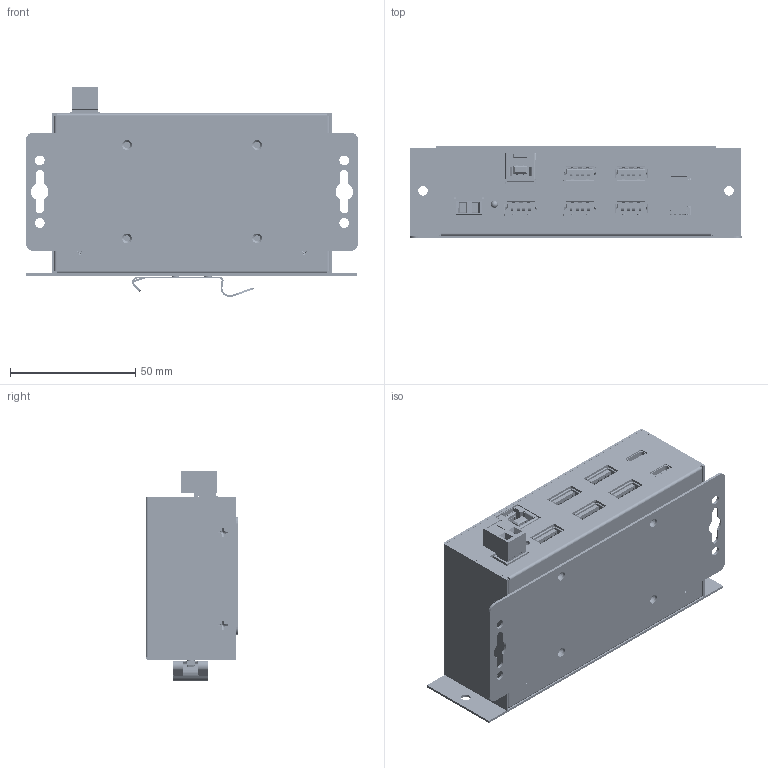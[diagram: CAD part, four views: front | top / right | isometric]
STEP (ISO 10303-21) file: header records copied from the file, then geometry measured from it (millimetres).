
FILE_DESCRIPTION(/* description */ (''),/* implementation_level */ '2;1');
FILE_NAME(/* name */ '/Users/leo/Desktop/Coolgear May/CG-7PU312C/CG-7PU312C Model3D LPV1.step',/* time_stamp */ '2021-10-31T10:14:01-04:00',/* author */ (''),/* organization */ (''),/* preprocessor_version */ 'ST-DEVELOPER v18.1',/* originating_system */ 'Autodesk Translation Framework v10.10.0.1391',/* authorisation */ '');
FILE_SCHEMA (('AUTOMOTIVE_DESIGN { 1 0 10303 214 3 1 1 }'));
Products named in the file (52): CG-7PU312C; Upper Case; Base Case; Flat hub mounting plate 2c1 v3; Component1; DINRCLP3X v11; DINRCLP3X; M3X0.5 China 120ang METRIC 18-8 SS FLAT HEAD PHIL MACHINE SCREW v2 (2
); M3X0.5 China 120ang METRIC 18-8 SS FLAT HEAD PHIL MACHINE SCREW v2; M3X0.5 China 120ang METRIC 18-8 SS FLAT HEAD PHIL MACHINE SCREW v2 (1
); 93655A003; Bakelite sheet; M3 x12mmH_BRASS COUPLING NUT v2; Bakelite sheet 2; 94209A354; C-type Usb v3; D1CG-43AB1 1LeD v2; User_Library-Led_3mm_Dialight_mod__551-1107F; C-type Usb v3_1; TypeC(12); Conector 2dbl short dinkle_2esdsm-02p v1; Phoenix connector EDZ950/XX TERMINAL BLOCK PLUGGABLE PLUG v6; USB type B Second Gen Blue.2Gen1 v3; Housing1; Housing2; pin1; shielding; pin2; shielding_2; Housing3; pin3; pin4; pin5; pin3_mir2; pin4_mir2; USB Type A Single Blue v1; Download_STP_692121030100_(rev1); USB Type A Single Blue v1_1; Download_STP_692121030100_(rev1)_1; USB Type A Single Blue v1_2 ...
Assembly tree (124 placements, depth 4):
  CG-7PU312C
    Upper Case
    Base Case
    Flat hub mounting plate 2c1 v3
      Component1
    DINRCLP3X v11
      DINRCLP3X
      M3X0.5 China 120ang METRIC 18-8 SS FLAT HEAD PHIL MACHINE SCREW v2 (2
)  x2
    M3X0.5 China 120ang METRIC 18-8 SS FLAT HEAD PHIL MACHINE SCREW v2  x4
    93655A003  x4
    M3X0.5 China 120ang METRIC 18-8 SS FLAT HEAD PHIL MACHINE SCREW v2 (1
)  x4
    Bakelite sheet
    M3 x12mmH_BRASS COUPLING NUT v2  x4
    Bakelite sheet 2
    94209A354  x4
    C-type Usb v3
      TypeC(12)
    D1CG-43AB1 1LeD v2
      User_Library-Led_3mm_Dialight_mod__551-1107F
    C-type Usb v3_1
      TypeC(12)
    Conector 2dbl short dinkle_2esdsm-02p v1
    Phoenix connector EDZ950/XX TERMINAL BLOCK PLUGGABLE PLUG v6
    USB type B Second Gen Blue.2Gen1 v3
      Housing1
      Housing2
      pin1  x2
      shielding
      pin2  x2
      shielding_2
      Housing3
      pin3
      pin4
      pin5
      pin3_mir2
      pin4_mir2
    USB Type A Single Blue v1
      Download_STP_692121030100_(rev1)
        housing1_1
        pin1 (1)  x5
        housing2_1
        pin2 (1)  x2
        pin  x2
        shielding (1)
    USB Type A Single Blue v1_1
      Download_STP_692121030100_(rev1)_1
        housing1_1
        pin1 (1)  x5
        housing2_1
        pin2 (1)  x2
        pin  x2
        shielding (1)
    USB Type A Single Blue v1_2
      Download_STP_692121030100_(rev1)_2
        housing1_1
        pin1 (1)  x5
        housing2_1
        pin2 (1)  x2
        pin  x2
        shielding (1)
Bounding box: 132.64 x 37 x 84.01 mm (x, y, z)
Volume: 85819.9 mm3; surface area: 153245.8 mm2
Topology: 8 solids, 110 shells, 10103 faces, 28943 edges, 18636 vertices
Faces by surface type: plane 7118, cylinder 2301, bspline 377, cone 280, torus 16, sphere 11
Full cylindrical faces by diameter (mm): 0.5 x4, 1.6 x2, 2.35 x68, 2.529 x18, 2.89 x1, 3 x76, 3.15 x8, 3.8 x2, 3.86 x2, 3.88 x8, 4 x20, 6 x3
Entity records: 442559 total; most frequent: CARTESIAN_POINT 178767, ORIENTED_EDGE 57610, DIRECTION 50783, EDGE_CURVE 28805, LINE 22377, VECTOR 22377, VERTEX_POINT 18556, AXIS2_PLACEMENT_3D 14203
